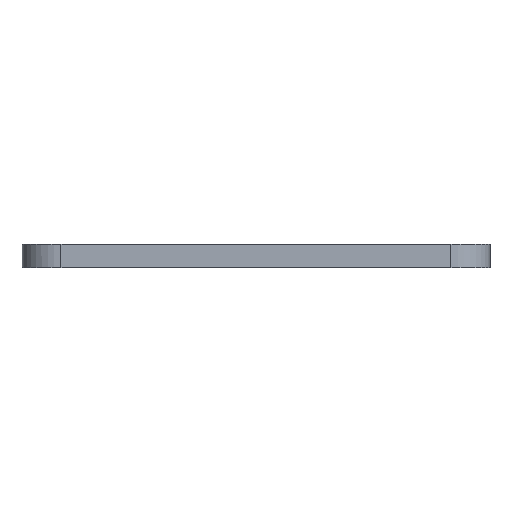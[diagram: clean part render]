
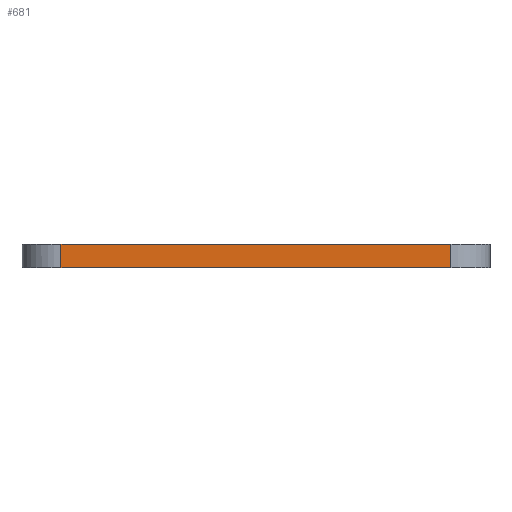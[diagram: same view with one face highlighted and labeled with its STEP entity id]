
A CAD part, front view. The second image highlights one B-rep face of the part: STEP entity #681.
In plain terms, the highlighted planar face has unit normal (0, -1, 0).
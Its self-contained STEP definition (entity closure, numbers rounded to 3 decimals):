
#24 = DIRECTION ( 'NONE',  ( 1., 0., 0. ) ) ;
#42 = CARTESIAN_POINT ( 'NONE',  ( 25., -30., 1.5 ) ) ;
#48 = CARTESIAN_POINT ( 'NONE',  ( 25., -30., -1.5 ) ) ;
#52 = CARTESIAN_POINT ( 'NONE',  ( -25., -30., 1.5 ) ) ;
#90 = LINE ( 'NONE', #106, #99 ) ;
#93 = DIRECTION ( 'NONE',  ( 0., 0., 1. ) ) ;
#97 = PLANE ( 'NONE',  #154 ) ;
#99 = VECTOR ( 'NONE', #93, 1000. ) ;
#106 = CARTESIAN_POINT ( 'NONE',  ( 25., -30., 1.5 ) ) ;
#115 = CARTESIAN_POINT ( 'NONE',  ( -25., -30., -1.5 ) ) ;
#132 = DIRECTION ( 'NONE',  ( 0., 0., -1. ) ) ;
#133 = VECTOR ( 'NONE', #132, 1000. ) ;
#134 = CARTESIAN_POINT ( 'NONE',  ( -25., -30., 1.5 ) ) ;
#135 = LINE ( 'NONE', #134, #133 ) ;
#142 = DIRECTION ( 'NONE',  ( -1., 0., 0. ) ) ;
#143 = DIRECTION ( 'NONE',  ( 0., 1., 0. ) ) ;
#144 = CARTESIAN_POINT ( 'NONE',  ( -30., -30., 1.5 ) ) ;
#146 = FACE_OUTER_BOUND ( 'NONE', #767, .T. ) ;
#154 = AXIS2_PLACEMENT_3D ( 'NONE', #144, #143, #142 ) ;
#265 = VECTOR ( 'NONE', #24, 1000. ) ;
#266 = CARTESIAN_POINT ( 'NONE',  ( -30., -30., -1.5 ) ) ;
#267 = LINE ( 'NONE', #266, #265 ) ;
#481 = LINE ( 'NONE', #482, #491 ) ;
#482 = CARTESIAN_POINT ( 'NONE',  ( -30., -30., 1.5 ) ) ;
#491 = VECTOR ( 'NONE', #493, 1000. ) ;
#493 = DIRECTION ( 'NONE',  ( 1., 0., 0. ) ) ;
#592 = EDGE_CURVE ( 'NONE', #626, #625, #481, .T. ) ;
#602 = EDGE_CURVE ( 'NONE', #661, #631, #267, .T. ) ;
#625 = VERTEX_POINT ( 'NONE', #42 ) ;
#626 = VERTEX_POINT ( 'NONE', #52 ) ;
#631 = VERTEX_POINT ( 'NONE', #48 ) ;
#661 = VERTEX_POINT ( 'NONE', #115 ) ;
#673 = ORIENTED_EDGE ( 'NONE', *, *, #592, .F. ) ;
#675 = EDGE_CURVE ( 'NONE', #631, #625, #90, .T. ) ;
#681 = ADVANCED_FACE ( 'NONE', ( #146 ), #97, .F. ) ;
#682 = ORIENTED_EDGE ( 'NONE', *, *, #602, .T. ) ;
#687 = EDGE_CURVE ( 'NONE', #626, #661, #135, .T. ) ;
#767 = EDGE_LOOP ( 'NONE', ( #682, #768, #673, #771 ) ) ;
#768 = ORIENTED_EDGE ( 'NONE', *, *, #675, .T. ) ;
#771 = ORIENTED_EDGE ( 'NONE', *, *, #687, .T. ) ;
